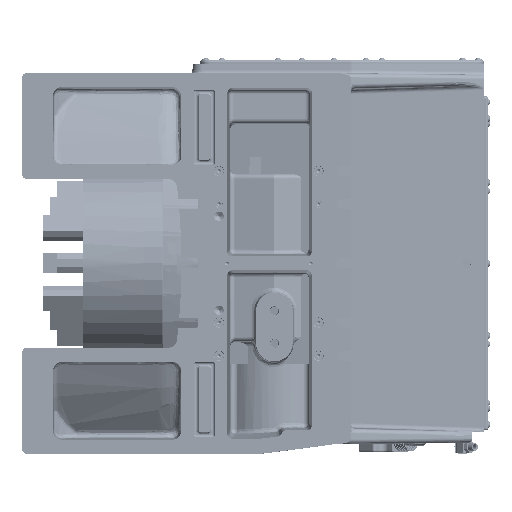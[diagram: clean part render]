
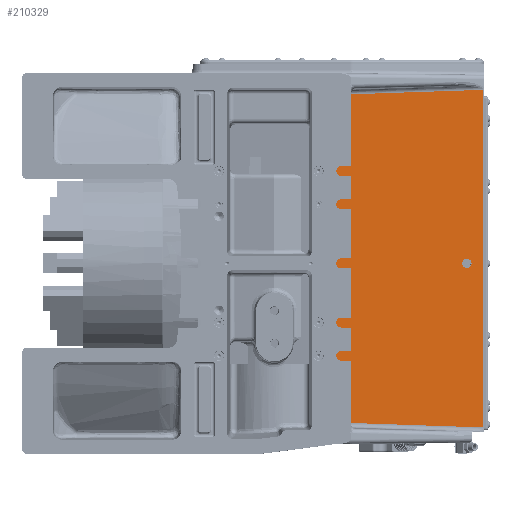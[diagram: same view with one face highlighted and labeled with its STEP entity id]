
A CAD part, front view. The second image highlights one B-rep face of the part: STEP entity #210329.
In plain terms, the highlighted planar face has unit normal (0.035, -0.999, 0).
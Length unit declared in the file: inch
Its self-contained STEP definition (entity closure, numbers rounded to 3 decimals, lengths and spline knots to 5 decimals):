
#925 = ORIENTED_EDGE ( 'NONE', *, *, #167982, .T. ) ;
#4837 = CARTESIAN_POINT ( 'NONE',  ( 7.93436, -7.77536, 1.54522 ) ) ;
#5660 = CARTESIAN_POINT ( 'NONE',  ( 0.85709, -8.0225, 10.01097 ) ) ;
#19554 = CARTESIAN_POINT ( 'NONE',  ( 7.93436, -7.77536, 0.54522 ) ) ;
#23126 = CARTESIAN_POINT ( 'NONE',  ( 7.93436, -7.77536, 1.04522 ) ) ;
#23665 = VERTEX_POINT ( 'NONE', #198782 ) ;
#30761 = CARTESIAN_POINT ( 'NONE',  ( 7.93436, -7.77536, 1.04522 ) ) ;
#37384 =( BOUNDED_CURVE ( )  B_SPLINE_CURVE ( 3, ( #58547, #197867, #19554, #54716 ),
 .UNSPECIFIED., .F., .F. ) 
 B_SPLINE_CURVE_WITH_KNOTS ( ( 4, 4 ),
 ( 3.14159, 6.28319 ),
 .UNSPECIFIED. ) 
 CURVE ( )  GEOMETRIC_REPRESENTATION_ITEM ( )  RATIONAL_B_SPLINE_CURVE ( ( 1., 0.333, 0.333, 1. ) ) 
 REPRESENTATION_ITEM ( '' )  );
#40082 = EDGE_CURVE ( 'NONE', #180580, #256029, #185750, .T. ) ;
#52765 = DIRECTION ( 'NONE',  ( 0.035, -0.999, 0. ) ) ;
#54039 = PLANE ( 'NONE',  #142196 ) ;
#54716 = CARTESIAN_POINT ( 'NONE',  ( 7.93436, -7.77536, 1.04522 ) ) ;
#58547 = CARTESIAN_POINT ( 'NONE',  ( 8.43436, -7.7579, 1.04522 ) ) ;
#60401 = CARTESIAN_POINT ( 'NONE',  ( 0.85709, -8.0225, -7.41345 ) ) ;
#60592 = EDGE_LOOP ( 'NONE', ( #146937, #204023, #217626, #925 ) ) ;
#62448 = EDGE_CURVE ( 'NONE', #193890, #23665, #192086, .T. ) ;
#65975 = CARTESIAN_POINT ( 'NONE',  ( 9.06409, -7.73591, -7.72713 ) ) ;
#69855 = CARTESIAN_POINT ( 'NONE',  ( 0.62663, -8.03055, -7.40569 ) ) ;
#71022 = CARTESIAN_POINT ( 'NONE',  ( 0.61581, -8.03093, -7.72713 ) ) ;
#71166 = LINE ( 'NONE', #69855, #80852 ) ;
#75032 = ORIENTED_EDGE ( 'NONE', *, *, #62448, .T. ) ;
#76176 = FACE_BOUND ( 'NONE', #76512, .T. ) ;
#76512 = EDGE_LOOP ( 'NONE', ( #91297, #75032 ) ) ;
#80852 = VECTOR ( 'NONE', #94516, 39.37008 ) ;
#88065 = DIRECTION ( 'NONE',  ( 0., 0., -1. ) ) ;
#91297 = ORIENTED_EDGE ( 'NONE', *, *, #204623, .T. ) ;
#93167 = VECTOR ( 'NONE', #227430, 39.37008 ) ;
#94516 = DIRECTION ( 'NONE',  ( 0.999, 0.035, -0.034 ) ) ;
#101071 = VERTEX_POINT ( 'NONE', #60401 ) ;
#123459 = CARTESIAN_POINT ( 'NONE',  ( 0.01971, -8.05175, 9.98275 ) ) ;
#132105 = DIRECTION ( 'NONE',  ( 0.999, 0.035, 0. ) ) ;
#142196 = AXIS2_PLACEMENT_3D ( 'NONE', #71022, #52765, #132105 ) ;
#146937 = ORIENTED_EDGE ( 'NONE', *, *, #211473, .T. ) ;
#163739 = CARTESIAN_POINT ( 'NONE',  ( 8.43436, -7.7579, 1.54522 ) ) ;
#167982 = EDGE_CURVE ( 'NONE', #256029, #224393, #222655, .T. ) ;
#180580 = VERTEX_POINT ( 'NONE', #252270 ) ;
#183488 = DIRECTION ( 'NONE',  ( -0.999, -0.035, -0.034 ) ) ;
#185750 = LINE ( 'NONE', #65975, #93167 ) ;
#187010 = CARTESIAN_POINT ( 'NONE',  ( 8.43436, -7.7579, 1.04522 ) ) ;
#189521 = FACE_OUTER_BOUND ( 'NONE', #60592, .T. ) ;
#192086 =( BOUNDED_CURVE ( )  B_SPLINE_CURVE ( 3, ( #23126, #4837, #163739, #187010 ),
 .UNSPECIFIED., .F., .F. ) 
 B_SPLINE_CURVE_WITH_KNOTS ( ( 4, 4 ),
 ( 0., 3.14159 ),
 .UNSPECIFIED. ) 
 CURVE ( )  GEOMETRIC_REPRESENTATION_ITEM ( )  RATIONAL_B_SPLINE_CURVE ( ( 1., 0.333, 0.333, 1. ) ) 
 REPRESENTATION_ITEM ( '' )  );
#193890 = VERTEX_POINT ( 'NONE', #30761 ) ;
#197867 = CARTESIAN_POINT ( 'NONE',  ( 8.43436, -7.7579, 0.54522 ) ) ;
#198782 = CARTESIAN_POINT ( 'NONE',  ( 8.43436, -7.7579, 1.04522 ) ) ;
#201008 = VECTOR ( 'NONE', #183488, 39.37008 ) ;
#201327 = VECTOR ( 'NONE', #88065, 39.37008 ) ;
#204023 = ORIENTED_EDGE ( 'NONE', *, *, #255710, .T. ) ;
#204623 = EDGE_CURVE ( 'NONE', #23665, #193890, #37384, .T. ) ;
#210329 = ADVANCED_FACE ( 'NONE', ( #76176, #189521 ), #54039, .T. ) ;
#211473 = EDGE_CURVE ( 'NONE', #224393, #101071, #227352, .T. ) ;
#217626 = ORIENTED_EDGE ( 'NONE', *, *, #40082, .T. ) ;
#222655 = LINE ( 'NONE', #123459, #201008 ) ;
#224393 = VERTEX_POINT ( 'NONE', #5660 ) ;
#226085 = CARTESIAN_POINT ( 'NONE',  ( 0.85709, -8.0225, -7.72713 ) ) ;
#227352 = LINE ( 'NONE', #226085, #201327 ) ;
#227430 = DIRECTION ( 'NONE',  ( 0., 0., 1. ) ) ;
#252270 = CARTESIAN_POINT ( 'NONE',  ( 9.06409, -7.73591, -7.69004 ) ) ;
#253045 = CARTESIAN_POINT ( 'NONE',  ( 9.06409, -7.73591, 10.28755 ) ) ;
#255710 = EDGE_CURVE ( 'NONE', #101071, #180580, #71166, .T. ) ;
#256029 = VERTEX_POINT ( 'NONE', #253045 ) ;
